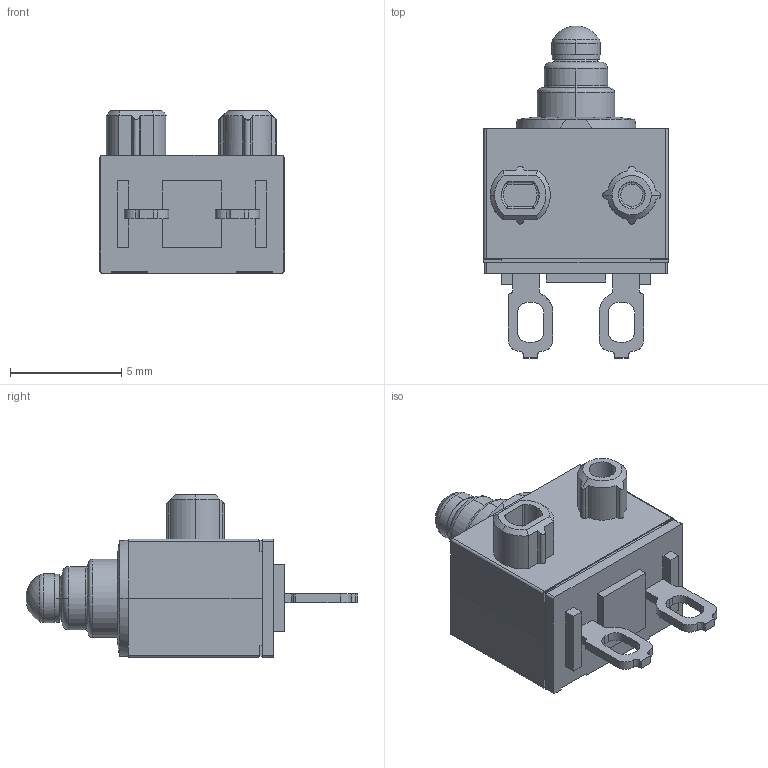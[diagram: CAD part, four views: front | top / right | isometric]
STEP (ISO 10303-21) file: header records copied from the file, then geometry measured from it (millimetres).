
FILE_DESCRIPTION (( 'STEP AP214' ), '1' );
FILE_NAME ('SPVQ830702.STEP', '2018-06-20T07:23:14', ( 'user' ), ( '' ), 'SwSTEP 2.0', 'SolidWorks 2017', '' );
FILE_SCHEMA (( 'AUTOMOTIVE_DESIGN' ));
Length unit declared in the file: millimetre
Products named in the file (1): SPVQ830702
Bounding box: 8.3 x 14.9 x 7.3 mm (x, y, z)
Volume: 339.1 mm3; surface area: 396 mm2
Topology: 1 solids, 1 shells, 308 faces, 833 edges, 544 vertices
Faces by surface type: plane 188, cylinder 73, cone 17, torus 17, bspline 8, sphere 5
Entity records: 11535 total; most frequent: CARTESIAN_POINT 3246, ORIENTED_EDGE 1654, DIRECTION 1331, EDGE_CURVE 827, LINE 555, VECTOR 555, VERTEX_POINT 543, AXIS2_PLACEMENT_3D 388
